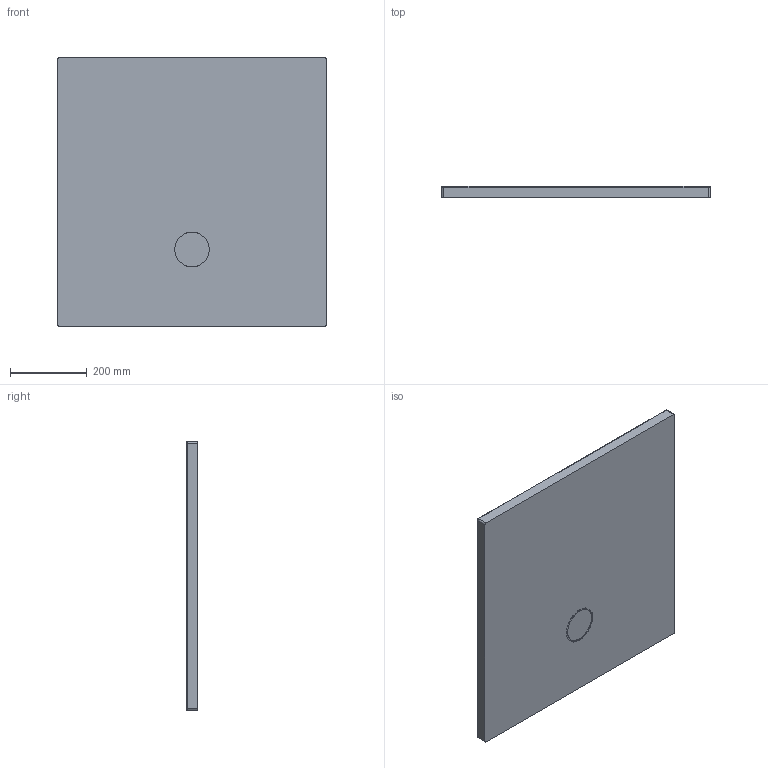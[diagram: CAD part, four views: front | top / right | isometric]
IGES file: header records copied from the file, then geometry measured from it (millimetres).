
Start section: SolidWorks IGES file using analytic representation for surfaces
Global section: file name: D:\Users\M.Szymanski\Desktop\B-M_Space\B_M_70x70x1,5.IGS; native system: SolidWorks 2011; preprocessor: SolidWorks 2011; author: M.Szymanski; date: 180216.073007; units: millimetre
Bounding box: 700 x 30 x 700 mm (x, y, z)
Surface area: 1076627.2 mm2 (no closed solid volume)
Topology: 0 solids, 0 shells, 61 faces, 743 edges, 740 vertices
Faces by surface type: bspline 39, revolution 22
